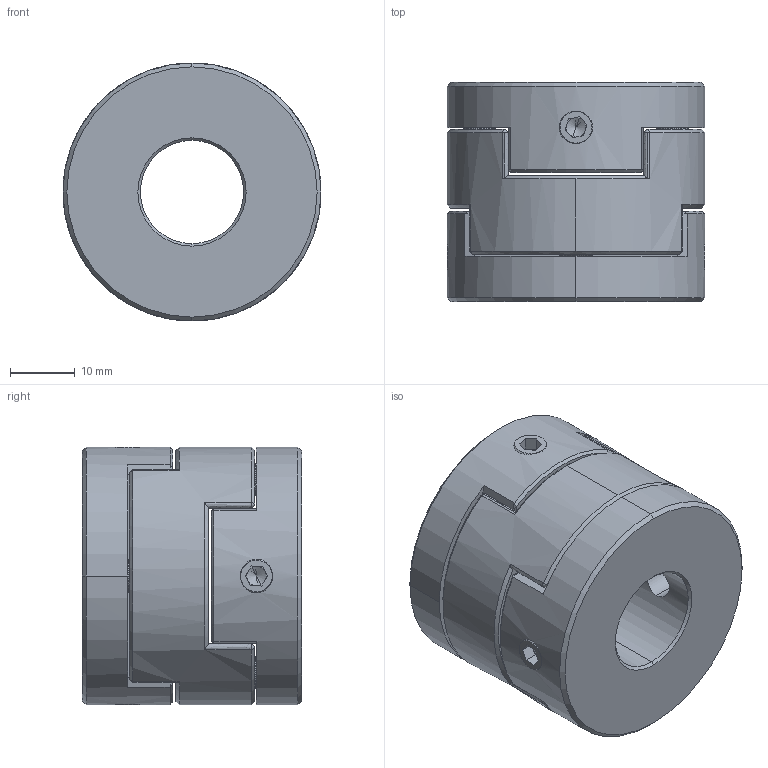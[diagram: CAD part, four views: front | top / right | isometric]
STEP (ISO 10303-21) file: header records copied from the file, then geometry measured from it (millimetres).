
FILE_DESCRIPTION (( 'STEP AP203' ), '1' );
FILE_NAME ('LZ-D-D40L35-16-20.STEP', '2021-10-30T05:24:21', ( '' ), ( '' ), 'SwSTEP 2.0', 'SolidWorks 2018', '' );
FILE_SCHEMA (( 'CONFIG_CONTROL_DESIGN' ));
Length unit declared in the file: millimetre
Products named in the file (1): LZ-D-D40L35-16-20
Bounding box: 40 x 34 x 40 mm (x, y, z)
Volume: 32336.5 mm3; surface area: 12236.9 mm2
Topology: 1 solids, 1 shells, 218 faces, 548 edges, 331 vertices
Faces by surface type: plane 89, bspline 55, cone 48, cylinder 26
Entity records: 7784 total; most frequent: CARTESIAN_POINT 3024, ORIENTED_EDGE 1080, DIRECTION 800, EDGE_CURVE 540, VERTEX_POINT 331, AXIS2_PLACEMENT_3D 290, EDGE_LOOP 243, VECTOR 220
